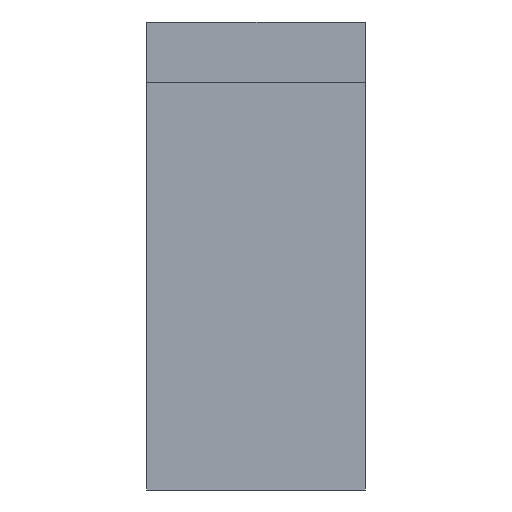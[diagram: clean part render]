
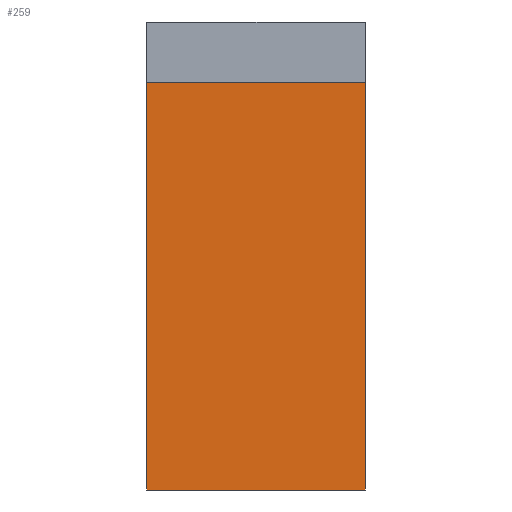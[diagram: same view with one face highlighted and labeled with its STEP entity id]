
A CAD part, left-side view. The second image highlights one B-rep face of the part: STEP entity #259.
In plain terms, the highlighted planar face has unit normal (-1, 0, 0).
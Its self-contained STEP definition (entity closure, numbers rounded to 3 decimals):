
#28=PLANE('',#293);
#42=FACE_OUTER_BOUND('',#60,.T.);
#60=EDGE_LOOP('',(#224,#225,#226,#227));
#68=LINE('',#390,#95);
#88=LINE('',#429,#115);
#89=LINE('',#431,#116);
#90=LINE('',#432,#117);
#95=VECTOR('',#324,10.);
#115=VECTOR('',#356,10.);
#116=VECTOR('',#359,10.);
#117=VECTOR('',#360,10.);
#131=VERTEX_POINT('',#387);
#132=VERTEX_POINT('',#389);
#144=VERTEX_POINT('',#425);
#145=VERTEX_POINT('',#427);
#156=EDGE_CURVE('',#131,#132,#68,.T.);
#176=EDGE_CURVE('',#144,#145,#88,.T.);
#177=EDGE_CURVE('',#131,#144,#89,.T.);
#178=EDGE_CURVE('',#132,#145,#90,.T.);
#224=ORIENTED_EDGE('',*,*,#177,.T.);
#225=ORIENTED_EDGE('',*,*,#176,.T.);
#226=ORIENTED_EDGE('',*,*,#178,.F.);
#227=ORIENTED_EDGE('',*,*,#156,.F.);
#259=ADVANCED_FACE('',(#42),#28,.T.);
#293=AXIS2_PLACEMENT_3D('',#430,#357,#358);
#324=DIRECTION('',(0.,1.,0.));
#356=DIRECTION('',(0.,1.,0.));
#357=DIRECTION('center_axis',(-1.,0.,0.));
#358=DIRECTION('ref_axis',(0.,0.,1.));
#359=DIRECTION('',(0.,0.,1.));
#360=DIRECTION('',(0.,0.,1.));
#387=CARTESIAN_POINT('',(4.1,0.,-12.4));
#389=CARTESIAN_POINT('',(4.1,5.8,-12.4));
#390=CARTESIAN_POINT('',(4.1,0.,-12.4));
#425=CARTESIAN_POINT('',(4.1,0.,-1.6));
#427=CARTESIAN_POINT('',(4.1,5.8,-1.6));
#429=CARTESIAN_POINT('',(4.1,0.,-1.6));
#430=CARTESIAN_POINT('Origin',(4.1,0.,-12.4));
#431=CARTESIAN_POINT('',(4.1,0.,-12.4));
#432=CARTESIAN_POINT('',(4.1,5.8,-12.4));
